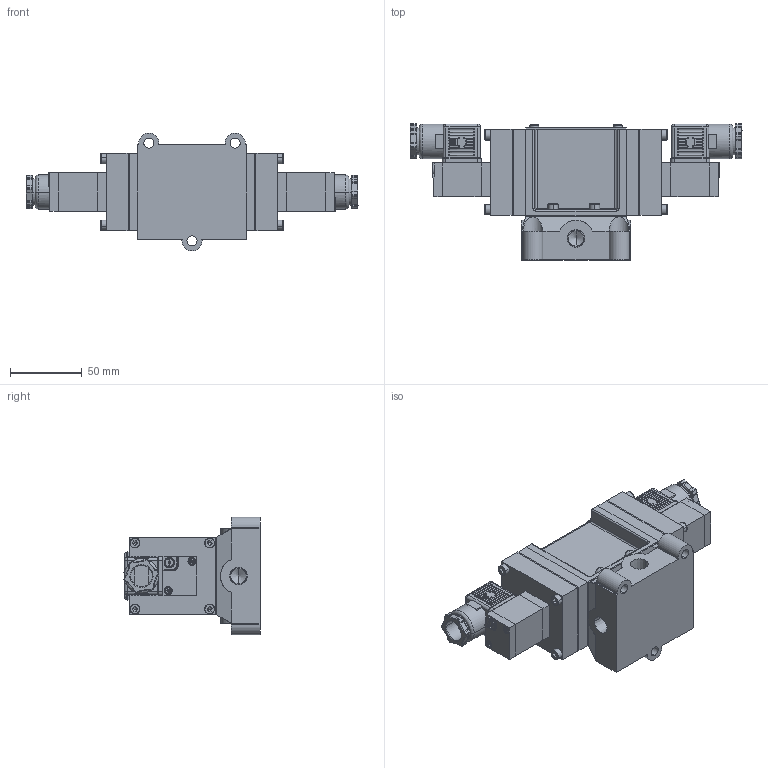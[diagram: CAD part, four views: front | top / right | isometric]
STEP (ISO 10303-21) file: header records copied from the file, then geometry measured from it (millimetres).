
FILE_DESCRIPTION (( 'STEP AP203' ), '1' );
FILE_NAME ('PMD(E)3408#-02-#C#.STEP', '2016-03-09T05:39:40', ( 'Sam Lin' ), ( '' ), 'SwSTEP 2.0', 'SolidWorks 2013', '' );
FILE_SCHEMA (( 'CONFIG_CONTROL_DESIGN' ));
Length unit declared in the file: metre
Products named in the file (17): PMD(E)3408#-02-#C#; PMS2408-5; PMS2408-9; PMS2408-7; PM06-C1; PMS2408-8; PM06-C4; PM08-MARK-2408; PM06-C6-M3; PM06-C3-M4; PMS2408-1; PM06-C5; PMS2408-2; PMS2306-6(C); PMS2408-3; ISO 4762 M4 x 10; PMS2408-4
Assembly tree (40 placements, depth 2):
  PMD(E)3408#-02-#C#
    PMS2408-1
    PMS2408-2
    PMS2408-3
    PMS2408-4  x2
    PMS2408-5  x2
    PMS2408-7
    PMS2408-8  x2
    PM08-MARK-2408
    PM06-C3-M4  x4
    PMS2408-9  x2
    PM06-C1  x2
    PM06-C4  x2
    PM06-C6-M3  x4
    PM06-C5  x2
    PMS2306-6(C)  x2
    ISO 4762 M4 x 10  x11
Bounding box: 231 x 94.64 x 82 mm (x, y, z)
Volume: 568995.8 mm3; surface area: 147779.7 mm2
Topology: 46 solids, 46 shells, 1595 faces, 3964 edges, 2265 vertices
Faces by surface type: plane 626, cylinder 439, bspline 396, cone 134
Entity records: 30746 total; most frequent: CARTESIAN_POINT 12338, ORIENTED_EDGE 3392, DIRECTION 3177, EDGE_CURVE 1696, AXIS2_PLACEMENT_3D 1173, VERTEX_POINT 1061, LINE 831, VECTOR 831
